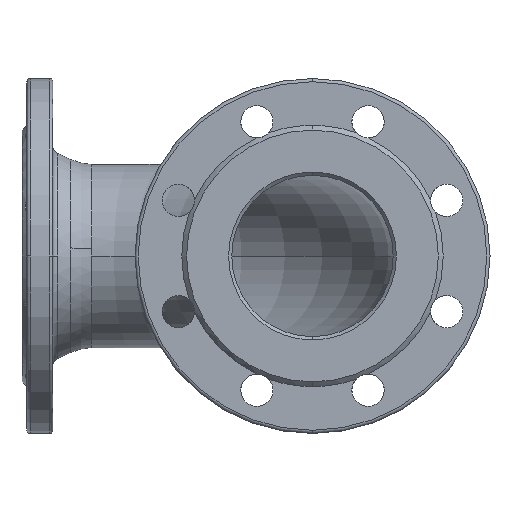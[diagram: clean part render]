
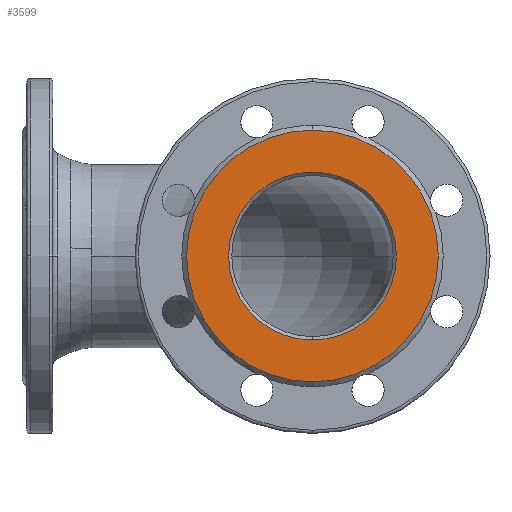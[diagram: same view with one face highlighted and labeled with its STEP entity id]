
A CAD part, left-side view. The second image highlights one B-rep face of the part: STEP entity #3599.
In plain terms, the highlighted planar face has unit normal (-1, 0, 0).
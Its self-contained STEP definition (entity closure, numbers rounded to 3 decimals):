
#20 = CARTESIAN_POINT ( 'NONE',  ( 0., 0., 0. ) ) ;
#287 = CARTESIAN_POINT ( 'NONE',  ( 0., 0., 0. ) ) ;
#390 = CARTESIAN_POINT ( 'NONE',  ( 0., 0., -52. ) ) ;
#496 = DIRECTION ( 'NONE',  ( 0., 0., -1. ) ) ;
#519 = DIRECTION ( 'NONE',  ( 0., 0., 1. ) ) ;
#709 = CARTESIAN_POINT ( 'NONE',  ( 0., 0., 52. ) ) ;
#787 = ORIENTED_EDGE ( 'NONE', *, *, #4289, .T. ) ;
#856 = AXIS2_PLACEMENT_3D ( 'NONE', #20, #1889, #496 ) ;
#948 = DIRECTION ( 'NONE',  ( -1., 0., 0. ) ) ;
#1294 = VERTEX_POINT ( 'NONE', #3521 ) ;
#1346 = VERTEX_POINT ( 'NONE', #709 ) ;
#1390 = FACE_BOUND ( 'NONE', #5589, .T. ) ;
#1879 = CARTESIAN_POINT ( 'NONE',  ( 0., 0., 0. ) ) ;
#1889 = DIRECTION ( 'NONE',  ( 1., 0., 0. ) ) ;
#2178 = EDGE_LOOP ( 'NONE', ( #5582, #3769 ) ) ;
#2476 = DIRECTION ( 'NONE',  ( 0., 0., 1. ) ) ;
#2750 = AXIS2_PLACEMENT_3D ( 'NONE', #1879, #4837, #519 ) ;
#2913 = FACE_OUTER_BOUND ( 'NONE', #2178, .T. ) ;
#2963 = AXIS2_PLACEMENT_3D ( 'NONE', #287, #6133, #3673 ) ;
#3275 = ORIENTED_EDGE ( 'NONE', *, *, #3420, .T. ) ;
#3420 = EDGE_CURVE ( 'Defeatured_0_5+Defeatured_0_70+Defeatured_0_70+Defeatured_0_70', #1346, #3882, #5649, .T. ) ;
#3451 = CIRCLE ( 'NONE', #2750, 78. ) ;
#3521 = CARTESIAN_POINT ( 'NONE',  ( 0., 0., 78. ) ) ;
#3532 = EDGE_CURVE ( 'Defeatured_0_5+Defeatured_0_7+Defeatured_0_7+Defeatured_0_7', #4417, #1294, #5753, .T. ) ;
#3599 = ADVANCED_FACE ( 'Defeatured_0_5', ( #1390, #2913 ), #5199, .F. ) ;
#3673 = DIRECTION ( 'NONE',  ( 0., 0., -1. ) ) ;
#3769 = ORIENTED_EDGE ( 'NONE', *, *, #4675, .T. ) ;
#3846 = CIRCLE ( 'NONE', #5443, 52. ) ;
#3882 = VERTEX_POINT ( 'NONE', #390 ) ;
#4190 = CARTESIAN_POINT ( 'NONE',  ( 0., 0., -78. ) ) ;
#4289 = EDGE_CURVE ( 'Defeatured_0_5+Defeatured_0_70+Defeatured_0_70+Defeatured_0_70', #3882, #1346, #3846, .T. ) ;
#4417 = VERTEX_POINT ( 'NONE', #4190 ) ;
#4675 = EDGE_CURVE ( 'Defeatured_0_5+Defeatured_0_7+Defeatured_0_7+Defeatured_0_7', #1294, #4417, #3451, .T. ) ;
#4760 = CARTESIAN_POINT ( 'NONE',  ( 0., 0., 0. ) ) ;
#4837 = DIRECTION ( 'NONE',  ( -1., 0., 0. ) ) ;
#4977 = CARTESIAN_POINT ( 'NONE',  ( 0., 0., 0. ) ) ;
#5005 = DIRECTION ( 'NONE',  ( 0., 0., -1. ) ) ;
#5199 = PLANE ( 'NONE',  #856 ) ;
#5443 = AXIS2_PLACEMENT_3D ( 'NONE', #4977, #5949, #5005 ) ;
#5582 = ORIENTED_EDGE ( 'NONE', *, *, #3532, .T. ) ;
#5589 = EDGE_LOOP ( 'NONE', ( #3275, #787 ) ) ;
#5649 = CIRCLE ( 'NONE', #2963, 52. ) ;
#5753 = CIRCLE ( 'NONE', #5962, 78. ) ;
#5949 = DIRECTION ( 'NONE',  ( 1., 0., 0. ) ) ;
#5962 = AXIS2_PLACEMENT_3D ( 'NONE', #4760, #948, #2476 ) ;
#6133 = DIRECTION ( 'NONE',  ( 1., 0., 0. ) ) ;
